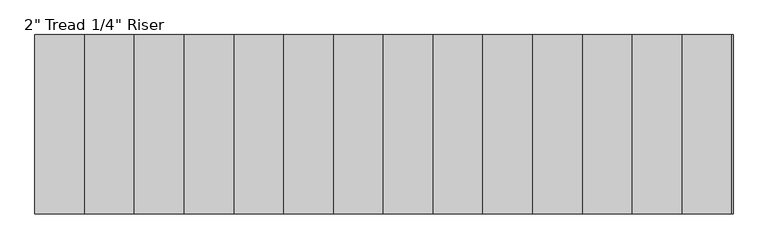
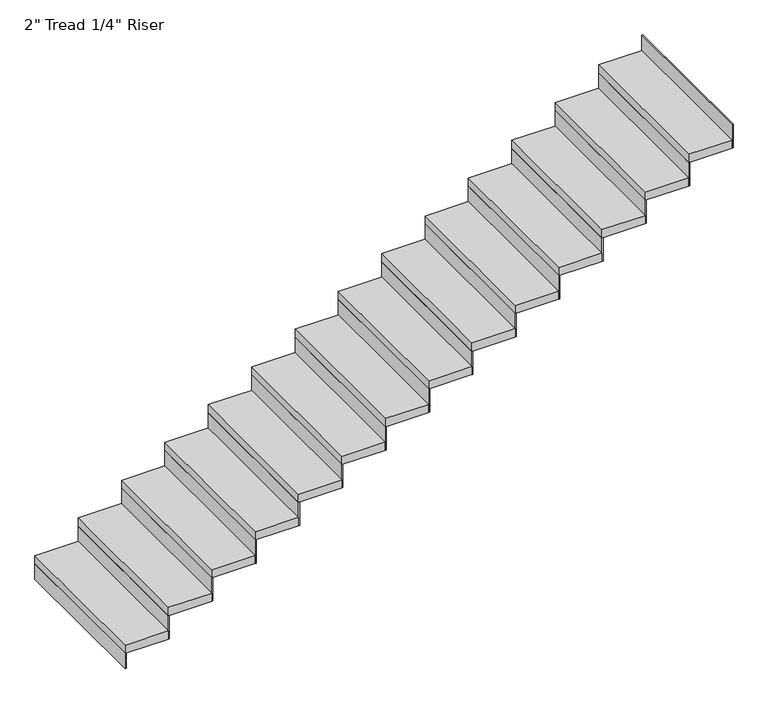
"""IFC4 building model written with IfcOpenShell, lengths in millimetres: stair flight geometry."""

from ifc_helpers import new_model, si_unit, frame, origin, origin_with_axes, place, context, project, spatial, polyline, outline, extrude, source, transform, mapped, element, save


def stair_flight_2fc1befa(model_context):
    return source(origin(), model_context, "Body", "SweptSolid", [
        extrude(outline(polyline([(29373.5491768, 28700.5361774), (29367.1991768, 28700.5361774), (29367.1991768, 29614.9361774), (29373.5491768, 29614.9361774), (29373.5491768, 28700.5361774)])), origin_with_axes(), (0.0, 0.0, 1.0), 94.3428571),
        extrude(outline(polyline([(29621.1991768, 29614.9361774), (29621.1991768, 28700.5361774), (29367.1991768, 28700.5361774), (29367.1991768, 29614.9361774), (29621.1991768, 29614.9361774)])), frame((0.0, 0.0, 94.3428571), z_axis=(0.0, 0.0, 1.0), x_axis=(1.0, 0.0, 0.0)), (0.0, 0.0, 1.0), 50.8),
        extrude(outline(polyline([(29627.5491768, 28700.5361774), (29621.1991768, 28700.5361774), (29621.1991768, 29614.9361774), (29627.5491768, 29614.9361774), (29627.5491768, 28700.5361774)])), frame((0.0, 0.0, 94.3428571), z_axis=(0.0, 0.0, 1.0), x_axis=(1.0, 0.0, 0.0)), (0.0, 0.0, 1.0), 145.1428571),
        extrude(outline(polyline([(29875.1991768, 29614.9361774), (29875.1991768, 28700.5361774), (29621.1991768, 28700.5361774), (29621.1991768, 29614.9361774), (29875.1991768, 29614.9361774)])), frame((0.0, 0.0, 239.4857143), z_axis=(0.0, 0.0, 1.0), x_axis=(1.0, 0.0, 0.0)), (0.0, 0.0, 1.0), 50.8),
        extrude(outline(polyline([(29881.5491768, 28700.5361774), (29875.1991768, 28700.5361774), (29875.1991768, 29614.9361774), (29881.5491768, 29614.9361774), (29881.5491768, 28700.5361774)])), frame((0.0, 0.0, 239.4857143), z_axis=(0.0, 0.0, 1.0), x_axis=(1.0, 0.0, 0.0)), (0.0, 0.0, 1.0), 145.1428571),
        extrude(outline(polyline([(30129.1991768, 29614.9361774), (30129.1991768, 28700.5361774), (29875.1991768, 28700.5361774), (29875.1991768, 29614.9361774), (30129.1991768, 29614.9361774)])), frame((0.0, 0.0, 384.6285714), z_axis=(0.0, 0.0, 1.0), x_axis=(1.0, 0.0, 0.0)), (0.0, 0.0, 1.0), 50.8),
        extrude(outline(polyline([(30135.5491768, 28700.5361774), (30129.1991768, 28700.5361774), (30129.1991768, 29614.9361774), (30135.5491768, 29614.9361774), (30135.5491768, 28700.5361774)])), frame((0.0, 0.0, 384.6285714), z_axis=(0.0, 0.0, 1.0), x_axis=(1.0, 0.0, 0.0)), (0.0, 0.0, 1.0), 145.1428571),
        extrude(outline(polyline([(30383.1991768, 29614.9361774), (30383.1991768, 28700.5361774), (30129.1991768, 28700.5361774), (30129.1991768, 29614.9361774), (30383.1991768, 29614.9361774)])), frame((0.0, 0.0, 529.7714286), z_axis=(0.0, 0.0, 1.0), x_axis=(1.0, 0.0, 0.0)), (0.0, 0.0, 1.0), 50.8),
        extrude(outline(polyline([(30389.5491768, 28700.5361774), (30383.1991768, 28700.5361774), (30383.1991768, 29614.9361774), (30389.5491768, 29614.9361774), (30389.5491768, 28700.5361774)])), frame((0.0, 0.0, 529.7714286), z_axis=(0.0, 0.0, 1.0), x_axis=(1.0, 0.0, 0.0)), (0.0, 0.0, 1.0), 145.1428571),
        extrude(outline(polyline([(30637.1991768, 29614.9361774), (30637.1991768, 28700.5361774), (30383.1991768, 28700.5361774), (30383.1991768, 29614.9361774), (30637.1991768, 29614.9361774)])), frame((0.0, 0.0, 674.9142857), z_axis=(0.0, 0.0, 1.0), x_axis=(1.0, 0.0, 0.0)), (0.0, 0.0, 1.0), 50.8),
        extrude(outline(polyline([(30643.5491768, 28700.5361774), (30637.1991768, 28700.5361774), (30637.1991768, 29614.9361774), (30643.5491768, 29614.9361774), (30643.5491768, 28700.5361774)])), frame((0.0, 0.0, 674.9142857), z_axis=(0.0, 0.0, 1.0), x_axis=(1.0, 0.0, 0.0)), (0.0, 0.0, 1.0), 145.1428571),
        extrude(outline(polyline([(30891.1991768, 29614.9361774), (30891.1991768, 28700.5361774), (30637.1991768, 28700.5361774), (30637.1991768, 29614.9361774), (30891.1991768, 29614.9361774)])), frame((0.0, 0.0, 820.0571429), z_axis=(0.0, 0.0, 1.0), x_axis=(1.0, 0.0, 0.0)), (0.0, 0.0, 1.0), 50.8),
        extrude(outline(polyline([(30897.5491768, 28700.5361774), (30891.1991768, 28700.5361774), (30891.1991768, 29614.9361774), (30897.5491768, 29614.9361774), (30897.5491768, 28700.5361774)])), frame((0.0, 0.0, 820.0571429), z_axis=(0.0, 0.0, 1.0), x_axis=(1.0, 0.0, 0.0)), (0.0, 0.0, 1.0), 145.1428571),
        extrude(outline(polyline([(31145.1991768, 29614.9361774), (31145.1991768, 28700.5361774), (30891.1991768, 28700.5361774), (30891.1991768, 29614.9361774), (31145.1991768, 29614.9361774)])), frame((0.0, 0.0, 965.2), z_axis=(0.0, 0.0, 1.0), x_axis=(1.0, 0.0, 0.0)), (0.0, 0.0, 1.0), 50.8),
        extrude(outline(polyline([(31151.5491768, 28700.5361774), (31145.1991768, 28700.5361774), (31145.1991768, 29614.9361774), (31151.5491768, 29614.9361774), (31151.5491768, 28700.5361774)])), frame((0.0, 0.0, 965.2), z_axis=(0.0, 0.0, 1.0), x_axis=(1.0, 0.0, 0.0)), (0.0, 0.0, 1.0), 145.1428571),
        extrude(outline(polyline([(31399.1991768, 29614.9361774), (31399.1991768, 28700.5361774), (31145.1991768, 28700.5361774), (31145.1991768, 29614.9361774), (31399.1991768, 29614.9361774)])), frame((0.0, 0.0, 1110.3428571), z_axis=(0.0, 0.0, 1.0), x_axis=(1.0, 0.0, 0.0)), (0.0, 0.0, 1.0), 50.8),
        extrude(outline(polyline([(31405.5491768, 28700.5361774), (31399.1991768, 28700.5361774), (31399.1991768, 29614.9361774), (31405.5491768, 29614.9361774), (31405.5491768, 28700.5361774)])), frame((0.0, 0.0, 1110.3428571), z_axis=(0.0, 0.0, 1.0), x_axis=(1.0, 0.0, 0.0)), (0.0, 0.0, 1.0), 145.1428571),
        extrude(outline(polyline([(31653.1991768, 29614.9361774), (31653.1991768, 28700.5361774), (31399.1991768, 28700.5361774), (31399.1991768, 29614.9361774), (31653.1991768, 29614.9361774)])), frame((0.0, 0.0, 1255.4857143), z_axis=(0.0, 0.0, 1.0), x_axis=(1.0, 0.0, 0.0)), (0.0, 0.0, 1.0), 50.8),
        extrude(outline(polyline([(31659.5491768, 28700.5361774), (31653.1991768, 28700.5361774), (31653.1991768, 29614.9361774), (31659.5491768, 29614.9361774), (31659.5491768, 28700.5361774)])), frame((0.0, 0.0, 1255.4857143), z_axis=(0.0, 0.0, 1.0), x_axis=(1.0, 0.0, 0.0)), (0.0, 0.0, 1.0), 145.1428571),
        extrude(outline(polyline([(31907.1991768, 29614.9361774), (31907.1991768, 28700.5361774), (31653.1991768, 28700.5361774), (31653.1991768, 29614.9361774), (31907.1991768, 29614.9361774)])), frame((0.0, 0.0, 1400.6285714), z_axis=(0.0, 0.0, 1.0), x_axis=(1.0, 0.0, 0.0)), (0.0, 0.0, 1.0), 50.8),
        extrude(outline(polyline([(31913.5491768, 28700.5361774), (31907.1991768, 28700.5361774), (31907.1991768, 29614.9361774), (31913.5491768, 29614.9361774), (31913.5491768, 28700.5361774)])), frame((0.0, 0.0, 1400.6285714), z_axis=(0.0, 0.0, 1.0), x_axis=(1.0, 0.0, 0.0)), (0.0, 0.0, 1.0), 145.1428571),
        extrude(outline(polyline([(32161.1991768, 29614.9361774), (32161.1991768, 28700.5361774), (31907.1991768, 28700.5361774), (31907.1991768, 29614.9361774), (32161.1991768, 29614.9361774)])), frame((0.0, 0.0, 1545.7714286), z_axis=(0.0, 0.0, 1.0), x_axis=(1.0, 0.0, 0.0)), (0.0, 0.0, 1.0), 50.8),
        extrude(outline(polyline([(32167.5491768, 28700.5361774), (32161.1991768, 28700.5361774), (32161.1991768, 29614.9361774), (32167.5491768, 29614.9361774), (32167.5491768, 28700.5361774)])), frame((0.0, 0.0, 1545.7714286), z_axis=(0.0, 0.0, 1.0), x_axis=(1.0, 0.0, 0.0)), (0.0, 0.0, 1.0), 145.1428571),
        extrude(outline(polyline([(32415.1991768, 29614.9361774), (32415.1991768, 28700.5361774), (32161.1991768, 28700.5361774), (32161.1991768, 29614.9361774), (32415.1991768, 29614.9361774)])), frame((0.0, 0.0, 1690.9142857), z_axis=(0.0, 0.0, 1.0), x_axis=(1.0, 0.0, 0.0)), (0.0, 0.0, 1.0), 50.8),
        extrude(outline(polyline([(32421.5491768, 28700.5361774), (32415.1991768, 28700.5361774), (32415.1991768, 29614.9361774), (32421.5491768, 29614.9361774), (32421.5491768, 28700.5361774)])), frame((0.0, 0.0, 1690.9142857), z_axis=(0.0, 0.0, 1.0), x_axis=(1.0, 0.0, 0.0)), (0.0, 0.0, 1.0), 145.1428571),
        extrude(outline(polyline([(32669.1991768, 29614.9361774), (32669.1991768, 28700.5361774), (32415.1991768, 28700.5361774), (32415.1991768, 29614.9361774), (32669.1991768, 29614.9361774)])), frame((0.0, 0.0, 1836.0571429), z_axis=(0.0, 0.0, 1.0), x_axis=(1.0, 0.0, 0.0)), (0.0, 0.0, 1.0), 50.8),
        extrude(outline(polyline([(32675.5491768, 28700.5361774), (32669.1991768, 28700.5361774), (32669.1991768, 29614.9361774), (32675.5491768, 29614.9361774), (32675.5491768, 28700.5361774)])), frame((0.0, 0.0, 1836.0571429), z_axis=(0.0, 0.0, 1.0), x_axis=(1.0, 0.0, 0.0)), (0.0, 0.0, 1.0), 145.1428571),
        extrude(outline(polyline([(32929.5491768, 28700.5361774), (32923.1991768, 28700.5361774), (32923.1991768, 29614.9361774), (32929.5491768, 29614.9361774), (32929.5491768, 28700.5361774)])), frame((0.0, 0.0, 1981.2), z_axis=(0.0, 0.0, 1.0), x_axis=(1.0, 0.0, 0.0)), (0.0, 0.0, 1.0), 145.1428571),
        extrude(outline(polyline([(32923.1991768, 29614.9361774), (32923.1991768, 28700.5361774), (32669.1991768, 28700.5361774), (32669.1991768, 29614.9361774), (32923.1991768, 29614.9361774)])), frame((0.0, 0.0, 1981.2), z_axis=(0.0, 0.0, 1.0), x_axis=(1.0, 0.0, 0.0)), (0.0, 0.0, 1.0), 50.8),
    ])


if __name__ == "__main__":
    model = new_model("IFC4")
    model_context = context("Model", 3, world=origin())
    ifc_project = project(units=[si_unit("LENGTHUNIT", "METRE", prefix="MILLI")], contexts=[model_context])
    site = spatial("IfcSite", under=ifc_project)
    building = spatial("IfcBuilding", under=site)
    placement = place(None, origin())
    stair_flight_shape = stair_flight_2fc1befa(model_context)
    element("IfcStairFlight", 1, ObjectType="2\" Tread 1/4\" Riser", at=placement, inside=building, context=model_context, shape_type="MappedRepresentation", body=[
        mapped(stair_flight_shape, transform((0.0, 0.0, 0.0), x_axis=(1.0, 0.0, 0.0), y_axis=(0.0, 1.0, 0.0), z_axis=(0.0, 0.0, 1.0))),
    ])
    save(model, "model.ifc")
